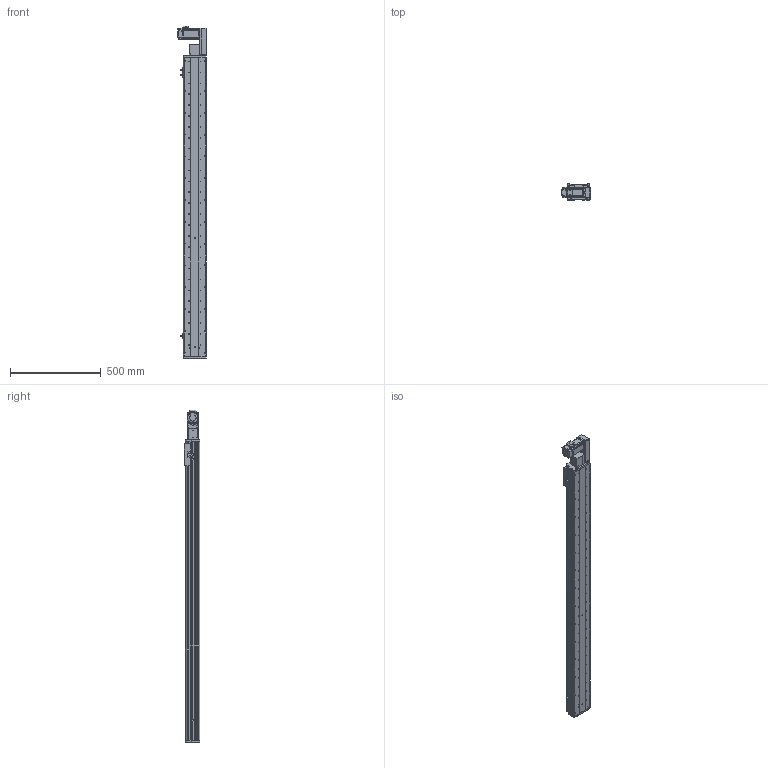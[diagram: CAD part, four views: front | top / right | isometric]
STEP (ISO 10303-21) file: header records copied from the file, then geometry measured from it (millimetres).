
FILE_DESCRIPTION (( 'STEP AP214' ), '1' );
FILE_NAME ('KSD125B-S1450-MLB-CM.STEP', '2017-10-21T02:05:04', ( '微软用户' ), ( '微软中国' ), 'SwSTEP 2.0', 'SolidWorks 2014', '' );
FILE_SCHEMA (( 'AUTOMOTIVE_DESIGN' ));
Length unit declared in the file: millimetre
Products named in the file (17): KSD125模组同步带-防撞垫2; 覜茼え68遵圉猾敕; U倰嫖萇假蚾璃; U倰嫖萇EEㄜSX672; KSD125模组同步带-防撞垫1; 前端板-125宽模组同步带; 125模组同步带-尾端板1; KSD125模组同步带-滑动座1; KSD125B-S1450-MLB-CM; 悵誘欶奻狟殏; HTPA30S3M150_A_H6_a佪裝蚚; HTPA30S3M150_A_H6_a萇儂蚚; 100宽马达安装板连板上下折丝杆同步带; 100宽马达安装板同步带左; KSD125模组1450行程同步带-防尘盖; 125模组1450行程同步带-底板; MHMD042G1CA_2_03
Assembly tree (20 placements, depth 2):
  KSD125B-S1450-MLB-CM
    KSD125模组同步带-滑动座1
    125模组同步带-尾端板1
    前端板-125宽模组同步带
    KSD125模组同步带-防撞垫1
    U倰嫖萇EEㄜSX672  x3
    U倰嫖萇假蚾璃  x3
    覜茼え68遵圉猾敕
    KSD125模组同步带-防撞垫2
    MHMD042G1CA_2_03
    125模组1450行程同步带-底板
    KSD125模组1450行程同步带-防尘盖
    100宽马达安装板同步带左
    100宽马达安装板连板上下折丝杆同步带
    HTPA30S3M150_A_H6_a萇儂蚚
    HTPA30S3M150_A_H6_a佪裝蚚
    悵誘欶奻狟殏
Bounding box: 155 x 86 x 1828 mm (x, y, z)
Volume: 5126203.8 mm3; surface area: 1699469.9 mm2
Topology: 19 solids, 22 shells, 2383 faces, 6913 edges, 4570 vertices
Faces by surface type: cylinder 1520, plane 736, cone 105, bspline 22
Entity records: 85343 total; most frequent: CARTESIAN_POINT 16791, DIRECTION 13254, ORIENTED_EDGE 12346, EDGE_CURVE 6251, AXIS2_PLACEMENT_3D 5145, VERTEX_POINT 4162, CIRCLE 2980, LINE 2964
